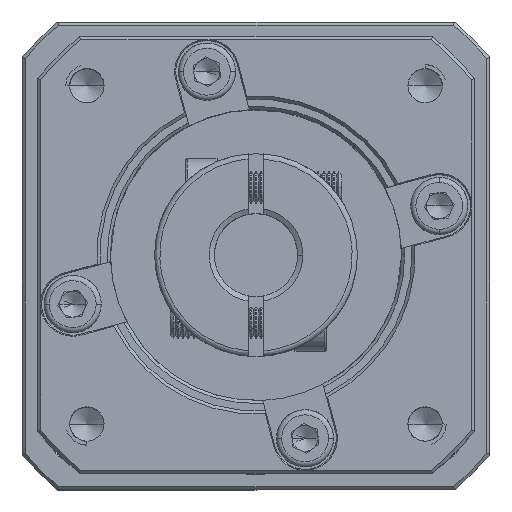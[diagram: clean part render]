
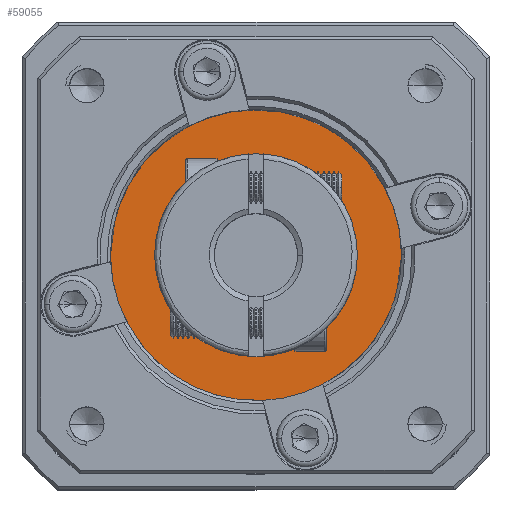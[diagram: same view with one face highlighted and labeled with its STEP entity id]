
A CAD part, top view. The second image highlights one B-rep face of the part: STEP entity #59055.
In plain terms, the highlighted planar face has unit normal (0, 0, 1).
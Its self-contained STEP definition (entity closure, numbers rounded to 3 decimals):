
#2212 = VERTEX_POINT ( 'NONE', #101069 ) ;
#4358 = EDGE_LOOP ( 'NONE', ( #59317, #115357 ) ) ;
#16719 = CIRCLE ( 'NONE', #24623, 20.8 ) ;
#17172 = VERTEX_POINT ( 'NONE', #42301 ) ;
#24623 = AXIS2_PLACEMENT_3D ( 'NONE', #49841, #100817, #100393 ) ;
#28076 = AXIS2_PLACEMENT_3D ( 'NONE', #49887, #60505, #60052 ) ;
#37535 = PLANE ( 'NONE',  #69263 ) ;
#38400 = DIRECTION ( 'NONE',  ( 1., 0., 0. ) ) ;
#42301 = CARTESIAN_POINT ( 'NONE',  ( -83.958, 6.61, 68.887 ) ) ;
#49841 = CARTESIAN_POINT ( 'NONE',  ( -63.158, 6.61, 68.887 ) ) ;
#49887 = CARTESIAN_POINT ( 'NONE',  ( -63.158, 6.61, 68.887 ) ) ;
#52615 = FACE_OUTER_BOUND ( 'NONE', #4358, .T. ) ;
#59055 = ADVANCED_FACE ( 'NONE', ( #52615 ), #37535, .T. ) ;
#59317 = ORIENTED_EDGE ( 'NONE', *, *, #72870, .F. ) ;
#60052 = DIRECTION ( 'NONE',  ( -1., 0., 0. ) ) ;
#60505 = DIRECTION ( 'NONE',  ( 0., 0., -1. ) ) ;
#69263 = AXIS2_PLACEMENT_3D ( 'NONE', #78061, #87672, #38400 ) ;
#72870 = EDGE_CURVE ( 'NONE', #17172, #2212, #94105, .T. ) ;
#78061 = CARTESIAN_POINT ( 'NONE',  ( -63.158, 6.61, 68.887 ) ) ;
#87672 = DIRECTION ( 'NONE',  ( 0., 0., 1. ) ) ;
#89994 = EDGE_CURVE ( 'NONE', #2212, #17172, #16719, .T. ) ;
#94105 = CIRCLE ( 'NONE', #28076, 20.8 ) ;
#100393 = DIRECTION ( 'NONE',  ( -1., 0., 0. ) ) ;
#100817 = DIRECTION ( 'NONE',  ( 0., 0., -1. ) ) ;
#101069 = CARTESIAN_POINT ( 'NONE',  ( -42.358, 6.61, 68.887 ) ) ;
#115357 = ORIENTED_EDGE ( 'NONE', *, *, #89994, .F. ) ;
